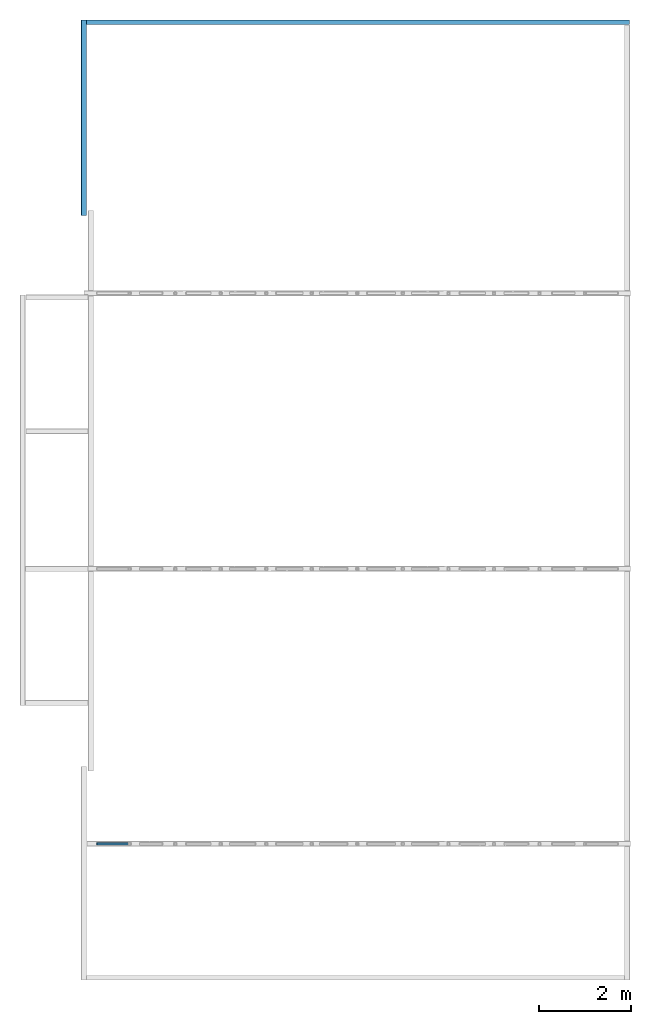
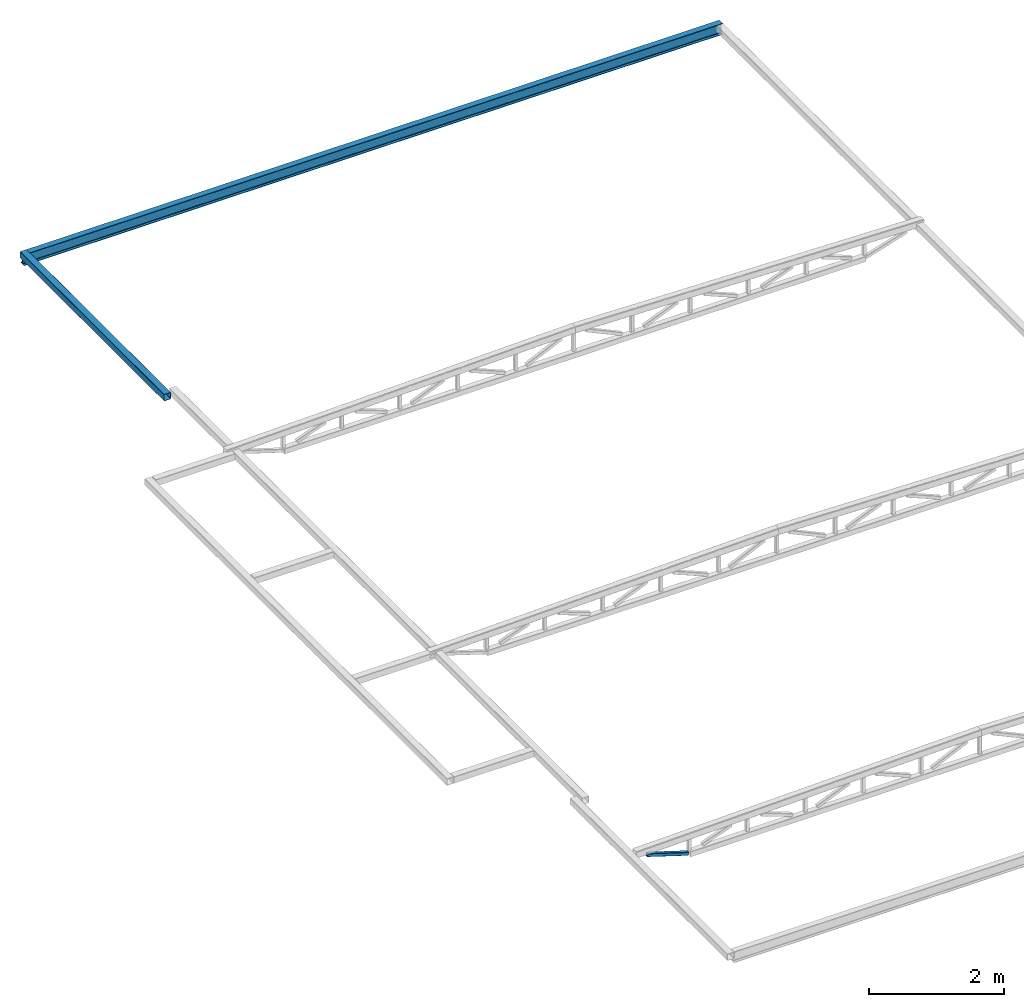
# One storey, part 2 of 10: 2 beams, 1 member, 1 element without a shape of its own.
"""IFC2X3 building model written with IfcOpenShell, lengths in millimetres."""

from ifc_helpers import new_model, entity, si_unit, converted_unit, derived_unit, direction, frame, frame_2d, origin, place, context, subcontext, project, spatial, polyline, circle_curve, parameter, trimmed, segment, composite_curve, i_section, outline, extrude, source, transform, mapped, material, type_object, type_shapes, element, aggregate, save


model = new_model("IFC2X3")

# Units and contexts
model_context = context("Model", 3, precision=0.01, world=origin(), true_north=direction((6.12303176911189e-17, 1.0)))
body_context = subcontext(model_context, "Body", "Model", "MODEL_VIEW")
ifc_project = project(units=[si_unit("LENGTHUNIT", "METRE", prefix="MILLI"), si_unit("AREAUNIT", "SQUARE_METRE"), si_unit("VOLUMEUNIT", "CUBIC_METRE"), converted_unit("PLANEANGLEUNIT", "DEGREE", entity("IfcRatioMeasure", 0.0174532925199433), si_unit("PLANEANGLEUNIT", "RADIAN"), dimensions=[0, 0, 0, 0, 0, 0, 0]), si_unit("MASSUNIT", "GRAM", prefix="KILO"), derived_unit("MASSDENSITYUNIT", [(si_unit("MASSUNIT", "GRAM", prefix="KILO"), 1), (si_unit("LENGTHUNIT", "METRE"), -3)]), si_unit("TIMEUNIT", "SECOND"), si_unit("FREQUENCYUNIT", "HERTZ"), si_unit("THERMODYNAMICTEMPERATUREUNIT", "DEGREE_CELSIUS"), derived_unit("THERMALTRANSMITTANCEUNIT", [(si_unit("MASSUNIT", "GRAM", prefix="KILO"), 1), (si_unit("THERMODYNAMICTEMPERATUREUNIT", "KELVIN"), -1), (si_unit("TIMEUNIT", "SECOND"), -3)]), derived_unit("VOLUMETRICFLOWRATEUNIT", [(si_unit("LENGTHUNIT", "METRE"), 3), (si_unit("TIMEUNIT", "SECOND"), -1)]), si_unit("ELECTRICCURRENTUNIT", "AMPERE"), si_unit("ELECTRICVOLTAGEUNIT", "VOLT"), si_unit("POWERUNIT", "WATT"), si_unit("FORCEUNIT", "NEWTON", prefix="KILO"), si_unit("ILLUMINANCEUNIT", "LUX"), si_unit("LUMINOUSFLUXUNIT", "LUMEN"), si_unit("LUMINOUSINTENSITYUNIT", "CANDELA"), derived_unit("USERDEFINED", [(si_unit("MASSUNIT", "GRAM", prefix="KILO"), -1), (si_unit("LENGTHUNIT", "METRE"), -2), (si_unit("TIMEUNIT", "SECOND"), 3), (si_unit("LUMINOUSFLUXUNIT", "LUMEN"), 1)]), derived_unit("LINEARVELOCITYUNIT", [(si_unit("LENGTHUNIT", "METRE"), 1), (si_unit("TIMEUNIT", "SECOND"), -1)]), si_unit("PRESSUREUNIT", "PASCAL"), derived_unit("USERDEFINED", [(si_unit("LENGTHUNIT", "METRE"), -2), (si_unit("MASSUNIT", "GRAM", prefix="KILO"), 1), (si_unit("TIMEUNIT", "SECOND"), -2)])], contexts=[model_context])

# Site, building, storey
site_placement = place(None, frame((0.0, 0.0, 101000.0)))
site = spatial("IfcSite", under=ifc_project, at=site_placement, Name="Default", CompositionType="ELEMENT")
building_placement = place(site_placement, origin())
building = spatial("IfcBuilding", under=site, at=building_placement, CompositionType="ELEMENT")
storey_placement = place(building_placement, frame((0.0, 0.0, 6025.0)))
storey = spatial("IfcBuildingStorey", under=building, at=storey_placement, Name="03", CompositionType="ELEMENT", Elevation=6024.9999999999)

# Beams
ifc_material_1 = material(Name="Stål - S355")
beam_type_1 = type_object("IfcBeamType", Name="Bjelke IPE:IPE 200", PredefinedType="BEAM")
beam_1_placement = place(storey_placement, frame((11210.9045409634, 44342.9507529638, 0.0)))
element("IfcBeam", 1, at=beam_1_placement, inside=storey, type_object=beam_type_1, material=ifc_material_1, Name="Bjelke IPE:IPE 200", ObjectType="Bjelke IPE:IPE 200", context=body_context, shape_type="SweptSolid", body=[
    extrude(i_section(OverallWidth=100.000000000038, OverallDepth=200.0, WebThickness=5.59999999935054, FlangeThickness=8.50000000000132, FilletRadius=11.999999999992, at=frame_2d((1.08002495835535e-12, -8.66506866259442e-12), x_axis=(0.0, 1.0))), frame((0.0, 0.0, -100.0), z_axis=(1.0, 0.0, 0.0), x_axis=(0.0, 0.0, -1.0)), (0.0, 0.0, 1.0), 11950.3599560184),
])
ifc_material_2 = material(Name="S355")
beam_type_2 = type_object("IfcBeamType", Name="Bjelke HUP:HUP 120x120x5", PredefinedType="BEAM")
beam_2_placement = place(storey_placement, frame((11260.9045409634, 40131.9922592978, 0.0), z_axis=(0.0, 0.0, 1.0), x_axis=(0.0, 1.0, 0.0)))
element("IfcBeam", 2, at=beam_2_placement, inside=storey, type_object=beam_type_2, material=ifc_material_2, Name="Bjelke HUP:HUP 120x120x5", ObjectType="Bjelke HUP:HUP 120x120x5", context=body_context, shape_type="SweptSolid", body=[
    extrude(outline(composite_curve([segment(trimmed(circle_curve(frame_2d((-50.0, -50.0), x_axis=(1.0, 0.0)), 10.0), [parameter(180.0)], [parameter(269.999999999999)], True, "PARAMETER"), True, "CONTINUOUS"), segment(polyline([(-50.0, -60.0), (50.0, -60.0)]), True, "CONTINUOUS"), segment(trimmed(circle_curve(frame_2d((50.0, -50.0), x_axis=(1.0, 0.0)), 10.0), [parameter(270.0)], [parameter(5.08888749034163e-14)], True, "PARAMETER"), True, "CONTINUOUS"), segment(polyline([(60.0, -50.0), (60.0, 50.0)]), True, "CONTINUOUS"), segment(trimmed(circle_curve(frame_2d((50.0, 50.0), x_axis=(1.0, 0.0)), 10.0), [parameter(360.0)], [parameter(89.9999999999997)], True, "PARAMETER"), True, "CONTINUOUS"), segment(polyline([(50.0, 60.0), (-50.0, 60.0)]), True, "CONTINUOUS"), segment(trimmed(circle_curve(frame_2d((-50.0, 50.0), x_axis=(1.0, 0.0)), 10.0), [parameter(90.0000000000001)], [parameter(180.0)], True, "PARAMETER"), True, "CONTINUOUS"), segment(polyline([(-60.0, 50.0), (-60.0, -50.0)]), True, "CONTINUOUS")], self_intersect=False), holes=[composite_curve([segment(polyline([(50.0, -55.0), (-50.0, -55.0)]), True, "CONTINUOUS"), segment(trimmed(circle_curve(frame_2d((-50.0, -50.0), x_axis=(1.0, 0.0)), 5.0), [parameter(180.0)], [parameter(270.0)], True, "PARAMETER"), False, "CONTINUOUS"), segment(polyline([(-55.0, -50.0), (-55.0, 50.0)]), True, "CONTINUOUS"), segment(trimmed(circle_curve(frame_2d((-50.0, 50.0), x_axis=(1.0, 0.0)), 5.0), [parameter(90.0000000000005)], [parameter(180.0)], True, "PARAMETER"), False, "CONTINUOUS"), segment(polyline([(-50.0, 55.0), (50.0, 55.0)]), True, "CONTINUOUS"), segment(trimmed(circle_curve(frame_2d((50.0, 50.0), x_axis=(1.0, 0.0)), 5.0), [parameter(0.0)], [parameter(90.0000000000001)], True, "PARAMETER"), False, "CONTINUOUS"), segment(polyline([(55.0, 50.0), (55.0, -50.0)]), True, "CONTINUOUS"), segment(trimmed(circle_curve(frame_2d((50.0, -50.0), x_axis=(1.0, 0.0)), 5.0), [parameter(270.0)], [parameter(3.05333249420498e-13)], True, "PARAMETER"), False, "CONTINUOUS")], self_intersect=False)]), frame((0.0, 0.0, -60.0), z_axis=(1.0, 0.0, 0.0), x_axis=(0.0, -1.0, 0.0)), (0.0, 0.0, 1.0), 4260.95849366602),
])

# Assembly, member
assembly_placement = place(storey_placement, origin())
assembly = element("IfcElementAssembly", 3, at=assembly_placement, inside=storey, Name="Gitterdrager:Standard", ObjectType="Gitterdrager:Standard", AssemblyPlace="NOTDEFINED", PredefinedType="TRUSS")
member_type = type_object("IfcMemberType", Name="60x60x5", PredefinedType="BRACE")
shared_shape = source(origin(), body_context, "Body", "SweptSolid", [
    extrude(outline(composite_curve([segment(trimmed(circle_curve(frame_2d((-20.0, -20.0), x_axis=(1.0, 0.0)), 10.0), [parameter(180.0)], [parameter(270.0)], True, "PARAMETER"), True, "CONTINUOUS"), segment(polyline([(-20.0, -30.0), (20.0, -30.0)]), True, "CONTINUOUS"), segment(trimmed(circle_curve(frame_2d((20.0, -20.0), x_axis=(1.0, 0.0)), 10.0), [parameter(270.0)], [parameter(5.08888749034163e-14)], True, "PARAMETER"), True, "CONTINUOUS"), segment(polyline([(30.0, -20.0), (30.0, 20.0)]), True, "CONTINUOUS"), segment(trimmed(circle_curve(frame_2d((20.0, 20.0), x_axis=(1.0, 0.0)), 10.0), [parameter(360.0)], [parameter(89.9999999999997)], True, "PARAMETER"), True, "CONTINUOUS"), segment(polyline([(20.0, 30.0), (-20.0, 30.0)]), True, "CONTINUOUS"), segment(trimmed(circle_curve(frame_2d((-20.0, 20.0), x_axis=(1.0, 0.0)), 10.0), [parameter(90.0000000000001)], [parameter(180.0)], True, "PARAMETER"), True, "CONTINUOUS"), segment(polyline([(-30.0, 20.0), (-30.0, -20.0)]), True, "CONTINUOUS")], self_intersect=False), holes=[composite_curve([segment(polyline([(20.0, -25.0), (-20.0, -25.0)]), True, "CONTINUOUS"), segment(trimmed(circle_curve(frame_2d((-20.0, -20.0), x_axis=(1.0, 0.0)), 5.0), [parameter(180.0)], [parameter(270.0)], True, "PARAMETER"), False, "CONTINUOUS"), segment(polyline([(-25.0, -20.0), (-25.0, 20.0)]), True, "CONTINUOUS"), segment(trimmed(circle_curve(frame_2d((-20.0, 20.0), x_axis=(1.0, 0.0)), 5.0), [parameter(90.0000000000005)], [parameter(180.0)], True, "PARAMETER"), False, "CONTINUOUS"), segment(polyline([(-20.0, 25.0), (20.0, 25.0)]), True, "CONTINUOUS"), segment(trimmed(circle_curve(frame_2d((20.0, 20.0), x_axis=(1.0, 0.0)), 5.0), [parameter(0.0)], [parameter(90.0000000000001)], True, "PARAMETER"), False, "CONTINUOUS"), segment(polyline([(25.0, 20.0), (25.0, -20.0)]), True, "CONTINUOUS"), segment(trimmed(circle_curve(frame_2d((20.0, -20.0), x_axis=(1.0, 0.0)), 5.0), [parameter(270.0)], [parameter(4.57999874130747e-13)], True, "PARAMETER"), False, "CONTINUOUS")], self_intersect=False)]), frame((-233.100976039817, 0.0, 0.0), z_axis=(1.0, 0.0, 0.0), x_axis=(0.0, -1.0, 0.0)), (0.0, 0.0, 1.0), 731.687840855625),
])
type_shapes(member_type, [shared_shape])
member_placement = place(assembly_placement, frame((11762.9311636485, 26417.9507529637, -184.523754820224), z_axis=(-0.300533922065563, 0.0, -0.95377112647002), x_axis=(0.95377112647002, 0.0, -0.300533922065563)))
member = element("IfcMember", 4, at=member_placement, type_object=member_type, Name="Bjelke HUP:60x60x5", ObjectType="60x60x5", context=body_context, shape_type="MappedRepresentation", body=[
    mapped(shared_shape, transform((0.0, 0.0, 0.0), scale=1.0)),
])
aggregate(assembly, [member])

save(model, "model.ifc")
